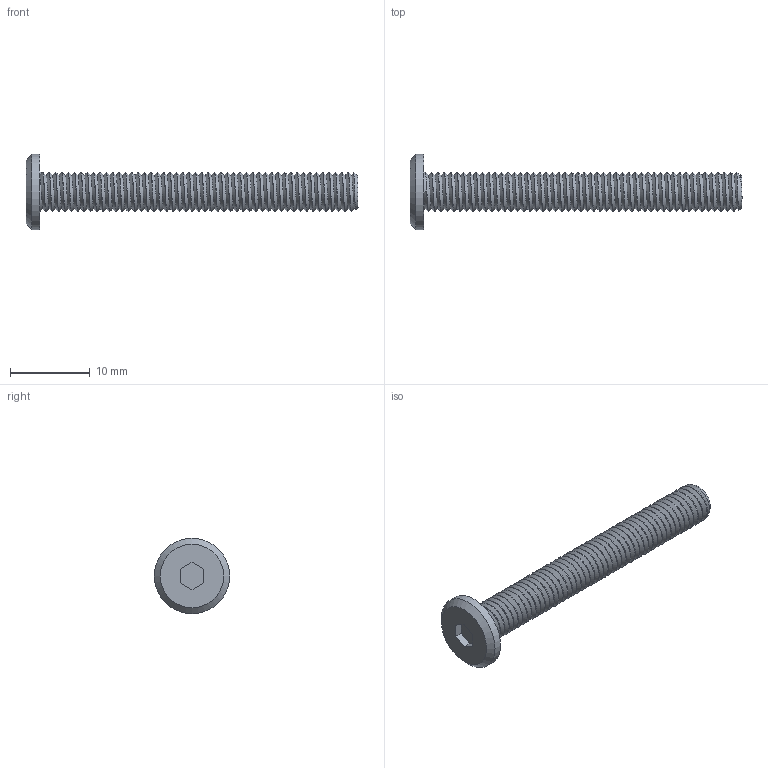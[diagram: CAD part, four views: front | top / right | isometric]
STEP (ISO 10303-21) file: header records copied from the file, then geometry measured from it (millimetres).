
FILE_DESCRIPTION(/* description */ ('STEP AP242 Edition 2','CAx-IF Rec.Pracs.---Representation and Presentation of Product Manufacturing Information (PMI)---4.0---2014-10-13','CAx-IF Rec.Pracs.---3D Tessellated Geometry---0.4---2014-09-14','2;1','CAx-IF Rec.Pracs.---User Defined Attributes---1.5---2016-08-15'),/* implementation_level */ '2;1');
FILE_NAME(/* name */ 'Final Build - M5x40mm',/* time_stamp */ '2026-08-31T23:26:19Z',/* author */ (''),/* organization */ (''),/* preprocessor_version */ 'ST-DEVELOPER v20',/* originating_system */ 'ONSHAPE BY PTC INC, 1.220',/* authorisation */ ' ');
FILE_SCHEMA (('AP242_MANAGED_MODEL_BASED_3D_ENGINEERING_MIM_LF { 1 0 10303 442 3 1 4 }'));
Length unit declared in the file: metre
Products named in the file (1): M5x40mm
Bounding box: 41.75 x 9.5 x 9.5 mm (x, y, z)
Volume: 734.2 mm3; surface area: 944.2 mm2
Topology: 1 solids, 1 shells, 18 faces, 45 edges, 31 vertices
Faces by surface type: plane 11, cylinder 3, bspline 2, cone 2
Full cylindrical faces by diameter (mm): 9.5 x1
Entity records: 5775 total; most frequent: CARTESIAN_POINT 5365, ORIENTED_EDGE 80, DIRECTION 70, EDGE_CURVE 40, VERTEX_POINT 29, AXIS2_PLACEMENT_3D 24, EDGE_LOOP 23, FACE_BOUND 23
